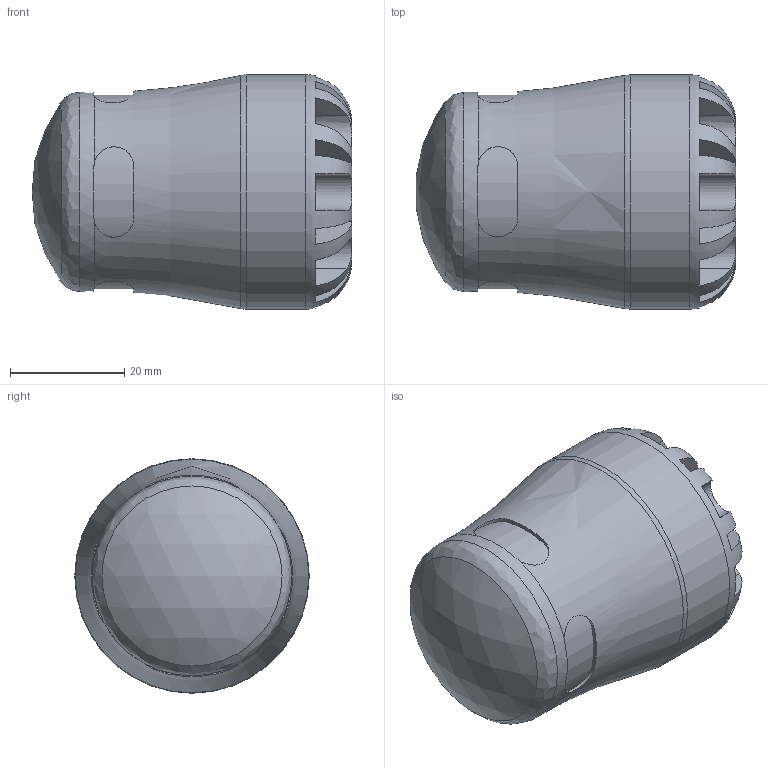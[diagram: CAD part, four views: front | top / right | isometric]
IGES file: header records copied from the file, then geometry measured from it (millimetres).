
Global section: file name: 101200020_191200020.ipt; native system: Autodesk Inventor 2015; preprocessor: unknown; author: KIM; date: 20170117.125117; units: millimetre
Bounding box: 55.85 x 41 x 41 mm (x, y, z)
Volume: 41504.9 mm3; surface area: 12019.8 mm2
Topology: 1 solids, 1 shells, 95 faces, 254 edges, 162 vertices
Faces by surface type: plane 57, revolution 23, cylinder 14, sphere 1
Full cylindrical faces by diameter (mm): 34.85 x1, 41 x1
